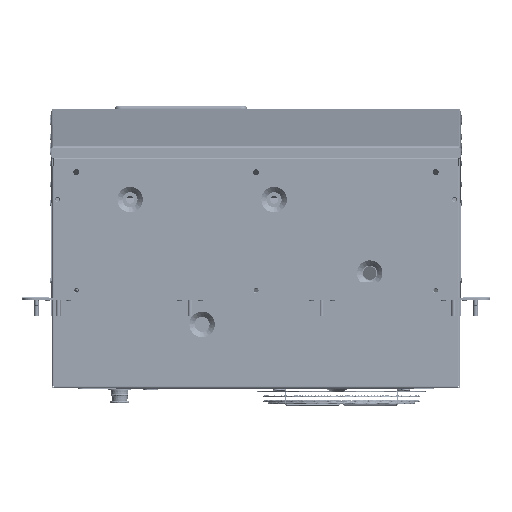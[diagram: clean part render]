
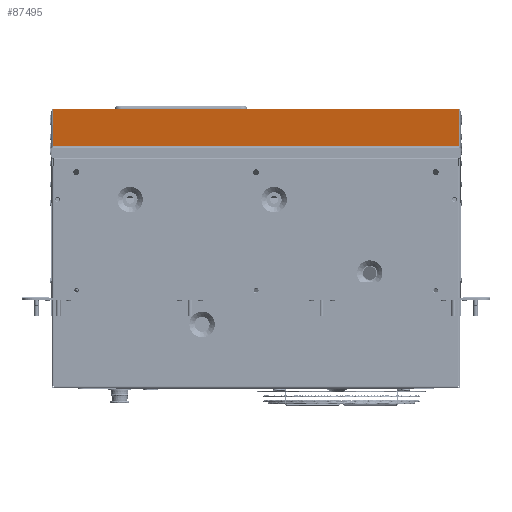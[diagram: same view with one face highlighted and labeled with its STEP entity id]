
A CAD part, front view. The second image highlights one B-rep face of the part: STEP entity #87495.
In plain terms, the highlighted planar face has unit normal (0, -0.156, 0.988).
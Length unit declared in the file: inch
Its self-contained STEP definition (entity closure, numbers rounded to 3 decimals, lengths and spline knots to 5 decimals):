
#31258 = EDGE_CURVE ( 'NONE', #49814, #49770, #40190, .T. ) ;
#31262 = EDGE_CURVE ( 'NONE', #49852, #49770, #40222, .T. ) ;
#31286 = EDGE_CURVE ( 'NONE', #49856, #49814, #40303, .T. ) ;
#31505 = EDGE_CURVE ( 'NONE', #49856, #49852, #41012, .T. ) ;
#40190 = LINE ( 'NONE', #49344, #40218 ) ;
#40218 = VECTOR ( 'NONE', #49347, 39.37008 ) ;
#40222 = LINE ( 'NONE', #49354, #40233 ) ;
#40233 = VECTOR ( 'NONE', #49357, 39.37008 ) ;
#40303 = LINE ( 'NONE', #49411, #40316 ) ;
#40316 = VECTOR ( 'NONE', #49414, 39.37008 ) ;
#40974 = VECTOR ( 'NONE', #50016, 39.37008 ) ;
#41012 = LINE ( 'NONE', #50003, #40974 ) ;
#49344 = CARTESIAN_POINT ( 'NONE',  ( -8.469, -52.64384, 6.33671 ) ) ;
#49347 = DIRECTION ( 'NONE',  ( 0., 0.988, 0.156 ) ) ;
#49354 = CARTESIAN_POINT ( 'NONE',  ( 8.469, -42.85068, 7.8878 ) ) ;
#49357 = DIRECTION ( 'NONE',  ( -1., 0., 0. ) ) ;
#49411 = CARTESIAN_POINT ( 'NONE',  ( 8.469, -52.64384, 6.33671 ) ) ;
#49414 = DIRECTION ( 'NONE',  ( -1., 0., 0. ) ) ;
#49770 = VERTEX_POINT ( 'NONE', #119763 ) ;
#49814 = VERTEX_POINT ( 'NONE', #119807 ) ;
#49852 = VERTEX_POINT ( 'NONE', #119847 ) ;
#49856 = VERTEX_POINT ( 'NONE', #119850 ) ;
#50003 = CARTESIAN_POINT ( 'NONE',  ( 8.469, -52.64384, 6.33671 ) ) ;
#50016 = DIRECTION ( 'NONE',  ( 0., 0.988, 0.156 ) ) ;
#87495 = ADVANCED_FACE ( 'NONE', ( #252167 ), #245446, .T. ) ;
#98551 = ORIENTED_EDGE ( 'NONE', *, *, #31286, .F. ) ;
#98554 = ORIENTED_EDGE ( 'NONE', *, *, #31505, .T. ) ;
#119763 = CARTESIAN_POINT ( 'NONE',  ( -8.469, -42.85068, 7.8878 ) ) ;
#119807 = CARTESIAN_POINT ( 'NONE',  ( -8.469, -52.64384, 6.33671 ) ) ;
#119847 = CARTESIAN_POINT ( 'NONE',  ( 8.469, -42.85068, 7.8878 ) ) ;
#119850 = CARTESIAN_POINT ( 'NONE',  ( 8.469, -52.64384, 6.33671 ) ) ;
#192234 = ORIENTED_EDGE ( 'NONE', *, *, #31262, .T. ) ;
#192236 = ORIENTED_EDGE ( 'NONE', *, *, #31258, .F. ) ;
#223412 = AXIS2_PLACEMENT_3D ( 'NONE', #245437, #245452, #245454 ) ;
#245437 = CARTESIAN_POINT ( 'NONE',  ( 8.469, -52.64384, 6.33671 ) ) ;
#245446 = PLANE ( 'NONE',  #223412 ) ;
#245452 = DIRECTION ( 'NONE',  ( 0., -0.156, 0.988 ) ) ;
#245454 = DIRECTION ( 'NONE',  ( 0., -0.988, -0.156 ) ) ;
#252167 = FACE_OUTER_BOUND ( 'NONE', #276526, .T. ) ;
#276526 = EDGE_LOOP ( 'NONE', ( #192234, #192236, #98551, #98554 ) ) ;
